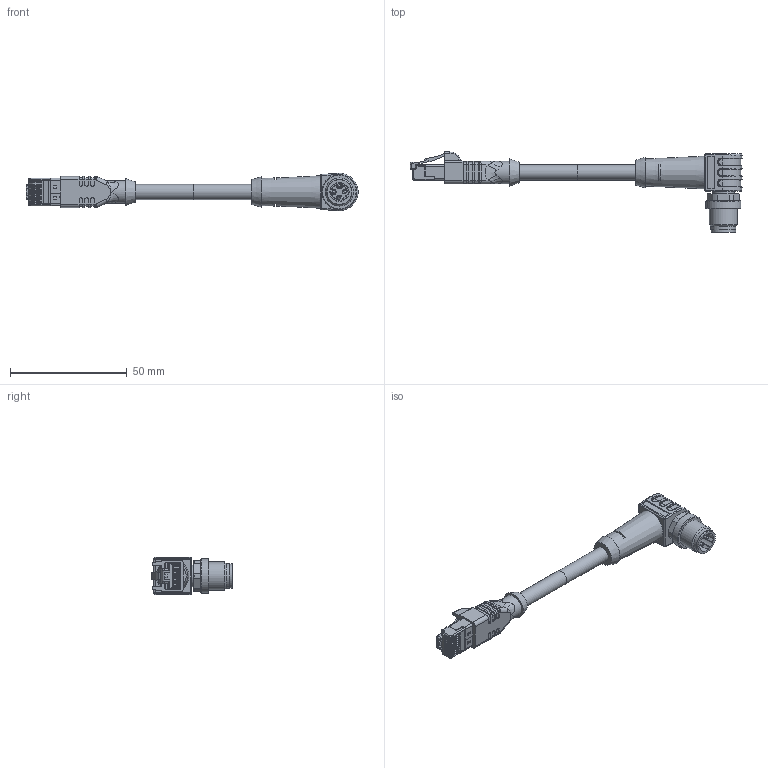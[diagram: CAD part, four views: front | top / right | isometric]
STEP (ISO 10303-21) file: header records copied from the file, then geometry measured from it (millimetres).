
FILE_DESCRIPTION(/* description */ (''),/* implementation_level */ '2;1');
FILE_NAME(/* name */ 'C:\#Vault-WorkDir\Konstruktions-Dokumente\Projekte\VISOR\Zubehör\153-13564_CI L4MW_RJ45G-GS-xm-PUR.stp',/* time_stamp */ '2019-11-14T10:01:22+01:00',/* author */ ('SensoPart'),/* organization */ ('SensoPart'),/* preprocessor_version */ 'ST-DEVELOPER v17',/* originating_system */ 'Autodesk Inventor 2018',/* authorisation */ '');
FILE_SCHEMA (('AUTOMOTIVE_DESIGN { 1 0 10303 214 3 1 1 }'));
Length unit declared in the file: millimetre
Products named in the file (1): GH-ENG-0027430
Bounding box: 142.17 x 34.34 x 15.97 mm (x, y, z)
Volume: 14906.5 mm3; surface area: 7372.9 mm2
Topology: 2 solids, 2 shells, 908 faces, 2372 edges, 1485 vertices
Faces by surface type: plane 398, cylinder 333, bspline 77, torus 72, sphere 16, cone 12
Full cylindrical faces by diameter (mm): 1 x4, 6.5 x2, 8.3 x1, 9.3 x1, 10.5 x1, 10.8 x1, 12 x1, 15 x1
Entity records: 31058 total; most frequent: CARTESIAN_POINT 7713, DIRECTION 4748, ORIENTED_EDGE 4716, EDGE_CURVE 2358, AXIS2_PLACEMENT_3D 1668, VERTEX_POINT 1485, LINE 1412, VECTOR 1412
